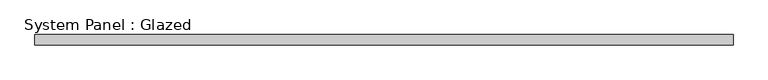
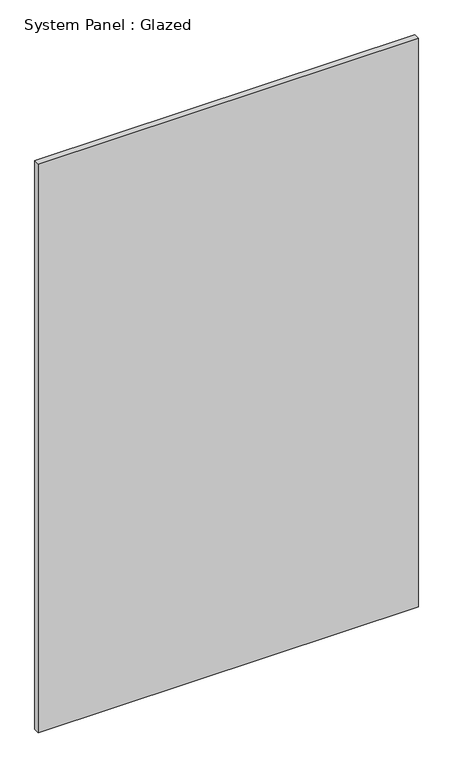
"""IFC4 building model written with IfcOpenShell, lengths in millimetres: plate geometry, System Panel : Glazed."""

from ifc_helpers import new_model, si_unit, origin, origin_with_axes, place, context, project, spatial, polyline, outline, extrude, source, transform, mapped, element, save


def system_panel_glazed_b5fa263a(model_context):
    return source(origin(), model_context, "Body", "SweptSolid", [
        extrude(outline(polyline([(857.1642504, 19.05), (-857.1642504, 19.05), (-857.1642504, 44.45), (857.1642504, 44.45), (857.1642504, 19.05)])), origin_with_axes(), (0.0, 0.0, 1.0), 2711.4294337),
    ])


if __name__ == "__main__":
    model = new_model("IFC4")
    model_context = context("Model", 3, world=origin())
    ifc_project = project(units=[si_unit("LENGTHUNIT", "METRE", prefix="MILLI")], contexts=[model_context])
    site = spatial("IfcSite", under=ifc_project)
    building = spatial("IfcBuilding", under=site)
    placement = place(None, origin())
    system_panel_glazed_shape = system_panel_glazed_b5fa263a(model_context)
    element("IfcPlate", 1, ObjectType="System Panel : Glazed", at=placement, inside=building, context=model_context, shape_type="MappedRepresentation", body=[
        mapped(system_panel_glazed_shape, transform((0.0, 0.0, 0.0), x_axis=(1.0, 0.0, 0.0), y_axis=(0.0, 1.0, 0.0), z_axis=(0.0, 0.0, 1.0))),
    ])
    save(model, "model.ifc")
